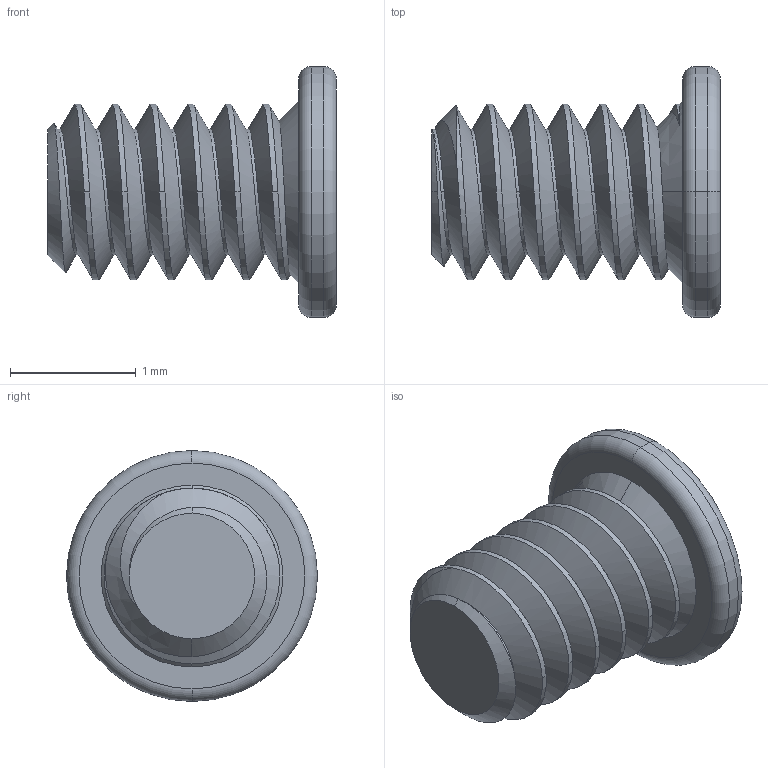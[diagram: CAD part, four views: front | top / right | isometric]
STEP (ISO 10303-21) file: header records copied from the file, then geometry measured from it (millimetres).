
FILE_DESCRIPTION (( 'STEP AP203' ), '1' );
FILE_NAME ('M14-20-M-SS-UT-USMICROSCREW.STEP', '2014-12-30T00:06:05', ( '' ), ( '' ), 'SwSTEP 2.0', 'SolidWorks 2014', '' );
FILE_SCHEMA (( 'CONFIG_CONTROL_DESIGN' ));
Length unit declared in the file: millimetre
Products named in the file (1): M14-20-M-SS-UT-USMICROSCREW
Bounding box: 2.3 x 2 x 2 mm (x, y, z)
Volume: 3.2 mm3; surface area: 20.3 mm2
Topology: 1 solids, 1 shells, 65 faces, 169 edges, 104 vertices
Faces by surface type: cylinder 34, plane 16, bspline 6, cone 5, torus 4
Entity records: 3005 total; most frequent: CARTESIAN_POINT 1599, ORIENTED_EDGE 330, DIRECTION 224, EDGE_CURVE 165, VERTEX_POINT 104, AXIS2_PLACEMENT_3D 82, EDGE_LOOP 67, ADVANCED_FACE 65
